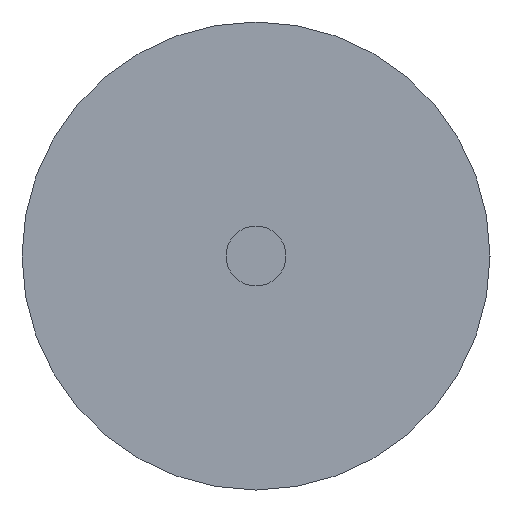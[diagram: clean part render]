
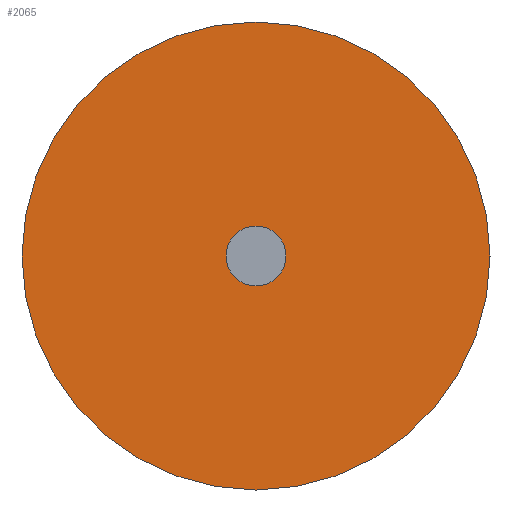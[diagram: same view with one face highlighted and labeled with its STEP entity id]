
A CAD part, left-side view. The second image highlights one B-rep face of the part: STEP entity #2065.
In plain terms, the highlighted planar face has unit normal (-1, 0, 0).
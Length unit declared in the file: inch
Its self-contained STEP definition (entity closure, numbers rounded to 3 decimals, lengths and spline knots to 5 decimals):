
#105 = CIRCLE ( 'NONE', #111, 0.03 ) ;
#111 = AXIS2_PLACEMENT_3D ( 'NONE', #2295, #304, #1153 ) ;
#152 = AXIS2_PLACEMENT_3D ( 'NONE', #1740, #2670, #672 ) ;
#160 = DIRECTION ( 'NONE',  ( 0., 0., -1. ) ) ;
#219 = CARTESIAN_POINT ( 'NONE',  ( 0., 0., 0. ) ) ;
#236 = ORIENTED_EDGE ( 'NONE', *, *, #383, .F. ) ;
#250 = ORIENTED_EDGE ( 'NONE', *, *, #1976, .F. ) ;
#262 = ORIENTED_EDGE ( 'NONE', *, *, #2204, .T. ) ;
#287 = ORIENTED_EDGE ( 'NONE', *, *, #1829, .T. ) ;
#304 = DIRECTION ( 'NONE',  ( -1., 0., 0. ) ) ;
#382 = PLANE ( 'NONE',  #1324 ) ;
#383 = EDGE_CURVE ( 'NONE', #2074, #2426, #1805, .T. ) ;
#392 = CIRCLE ( 'NONE', #490, 0.23412 ) ;
#428 = EDGE_LOOP ( 'NONE', ( #262, #287 ) ) ;
#460 = AXIS2_PLACEMENT_3D ( 'NONE', #1820, #2742, #740 ) ;
#490 = AXIS2_PLACEMENT_3D ( 'NONE', #219, #1290, #2202 ) ;
#562 = VERTEX_POINT ( 'NONE', #1601 ) ;
#672 = DIRECTION ( 'NONE',  ( 0., 0., 1. ) ) ;
#740 = DIRECTION ( 'NONE',  ( 0., 0., 1. ) ) ;
#1153 = DIRECTION ( 'NONE',  ( 0., 0., 1. ) ) ;
#1202 = CARTESIAN_POINT ( 'NONE',  ( 0., 0., -0.03 ) ) ;
#1227 = CARTESIAN_POINT ( 'NONE',  ( 0., 0., 0. ) ) ;
#1290 = DIRECTION ( 'NONE',  ( -1., 0., 0. ) ) ;
#1324 = AXIS2_PLACEMENT_3D ( 'NONE', #1227, #2133, #160 ) ;
#1430 = FACE_BOUND ( 'NONE', #2604, .T. ) ;
#1583 = CIRCLE ( 'NONE', #152, 0.23412 ) ;
#1601 = CARTESIAN_POINT ( 'NONE',  ( 0., 0., -0.23412 ) ) ;
#1706 = VERTEX_POINT ( 'NONE', #2621 ) ;
#1740 = CARTESIAN_POINT ( 'NONE',  ( 0., 0., 0. ) ) ;
#1805 = CIRCLE ( 'NONE', #460, 0.03 ) ;
#1820 = CARTESIAN_POINT ( 'NONE',  ( 0., 0., 0. ) ) ;
#1829 = EDGE_CURVE ( 'NONE', #562, #1706, #1583, .T. ) ;
#1899 = CARTESIAN_POINT ( 'NONE',  ( 0., 0., 0.03 ) ) ;
#1976 = EDGE_CURVE ( 'NONE', #2426, #2074, #105, .T. ) ;
#2065 = ADVANCED_FACE ( 'NONE', ( #1430, #2374 ), #382, .F. ) ;
#2074 = VERTEX_POINT ( 'NONE', #1899 ) ;
#2133 = DIRECTION ( 'NONE',  ( 1., 0., 0. ) ) ;
#2202 = DIRECTION ( 'NONE',  ( 0., 0., 1. ) ) ;
#2204 = EDGE_CURVE ( 'NONE', #1706, #562, #392, .T. ) ;
#2295 = CARTESIAN_POINT ( 'NONE',  ( 0., 0., 0. ) ) ;
#2374 = FACE_OUTER_BOUND ( 'NONE', #428, .T. ) ;
#2426 = VERTEX_POINT ( 'NONE', #1202 ) ;
#2604 = EDGE_LOOP ( 'NONE', ( #236, #250 ) ) ;
#2621 = CARTESIAN_POINT ( 'NONE',  ( 0., 0., 0.23412 ) ) ;
#2670 = DIRECTION ( 'NONE',  ( -1., 0., 0. ) ) ;
#2742 = DIRECTION ( 'NONE',  ( -1., 0., 0. ) ) ;
